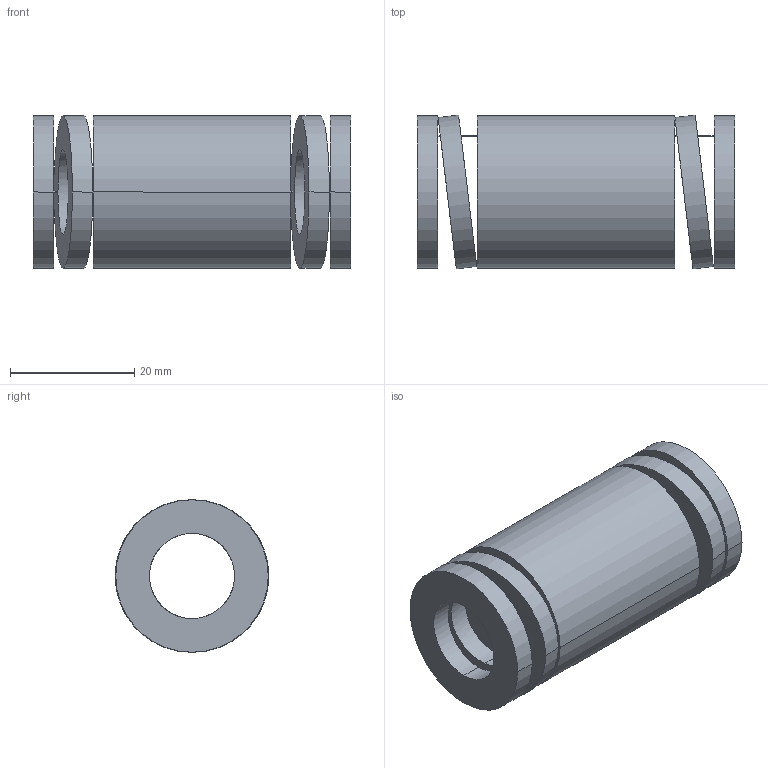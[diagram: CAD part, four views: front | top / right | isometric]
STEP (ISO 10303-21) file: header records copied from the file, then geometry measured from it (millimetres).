
FILE_DESCRIPTION(('CATIA V5 STEP Exchange'),'2;1');
FILE_NAME('C:\Users\Utente\Desktop\IO LAVORO\3D X SITO CF\X SITO\3D files 392B\392-B25-051.stp','2021-08-13T07:49:29+00:00',('none'),('none'),'CATIA Version 5 Release 20 GA (IN-10)','CATIA V5 STEP AP203','none');
FILE_SCHEMA(('CONFIG_CONTROL_DESIGN'));
Length unit declared in the file: millimetre
Products named in the file (1): 392-B25-051
Bounding box: 51 x 24.72 x 24.5 mm (x, y, z)
Volume: 14546.5 mm3; surface area: 8631.7 mm2
Topology: 1 solids, 1 shells, 38 faces, 92 edges, 64 vertices
Faces by surface type: cylinder 28, plane 10
Entity records: 1578 total; most frequent: CARTESIAN_POINT 691, ORIENTED_EDGE 184, DIRECTION 128, EDGE_CURVE 92, VERTEX_POINT 64, AXIS2_PLACEMENT_3D 63, EDGE_LOOP 56, B_SPLINE_CURVE_WITH_KNOTS 40
